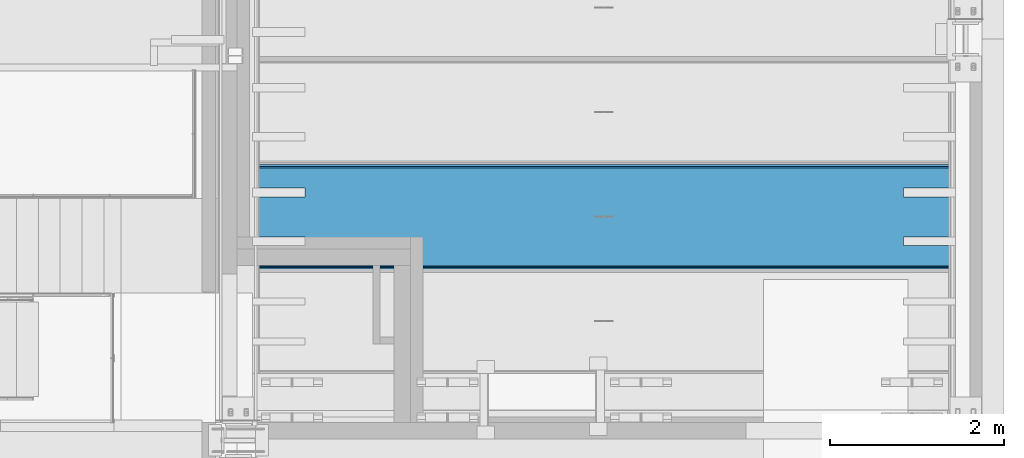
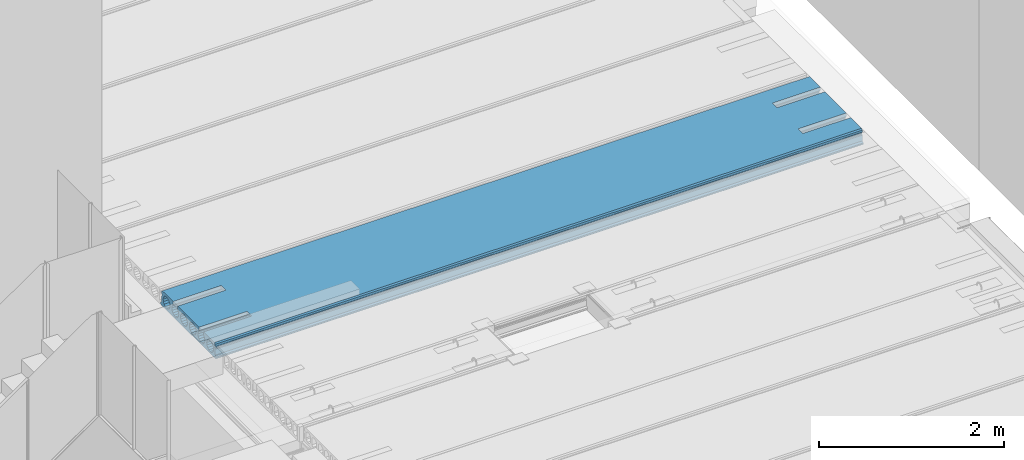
# One storey, part 101 of 230: 1 beam.
"""IFC4X3_ADD2 building model written with IfcOpenShell, lengths in millimetres."""

import ifcopenshell
import ifcopenshell.guid

model = None  # the IFC model being written
_history = None  # IfcOwnerHistory: only IFC2X3 demands one
_inside = {}  # id of a spatial element -> (the spatial element, [elements in it])
_under = {}  # id of a project, library or spatial element -> (it, [spatial elements below it])
_declared = {}  # id of a project -> (the project, [libraries it declares])
_typed = {}  # id of a type object -> (the type object, [elements of that type])
_made_of = {}  # id of a material, layer set ... -> (it, [elements and type objects made of it])


def new_model(schema):
    """Start an empty IFC model of exactly this schema.

    Asked for "IFC4X3", IfcOpenShell would pick the latest addendum, in which some entities
    have other attributes; the version numbers below select the first issue.
    IFC2X3 requires an IfcOwnerHistory on every rooted entity: one is made here for all.
    """
    global model, _history
    if schema == "IFC4X3":
        model = ifcopenshell.file(schema_version=(4, 3, 0, 0))
    else:
        model = ifcopenshell.file(schema=schema)
    _inside.clear()
    _under.clear()
    _declared.clear()
    _typed.clear()
    _made_of.clear()
    _history = None
    if model.schema == "IFC2X3":
        org = make("IfcOrganization", Name="unknown")
        user = make(
            "IfcPersonAndOrganization",
            ThePerson=make("IfcPerson", FamilyName="unknown"),
            TheOrganization=org,
        )
        app = make(
            "IfcApplication",
            ApplicationDeveloper=org,
            Version="unknown",
            ApplicationFullName="unknown",
            ApplicationIdentifier="unknown",
        )
        _history = make(
            "IfcOwnerHistory",
            OwningUser=user,
            OwningApplication=app,
            ChangeAction="ADDED",
            CreationDate=0,
        )
    return model


def make(cls, **values):
    """One entity of the class cls with the attributes given. An attribute that is None is left unset."""
    return model.create_entity(
        cls, **{name: value for name, value in values.items() if value is not None}
    )


def rooted(cls, **values):
    """An entity with a GlobalId (a new one), such as an element, a storey or a relation."""
    return make(cls, GlobalId=ifcopenshell.guid.new(), OwnerHistory=_history, **values)


def si_unit(unit_type, name, prefix=None):
    """IfcSIUnit, for example si_unit("LENGTHUNIT", "METRE", prefix="MILLI")."""
    return make("IfcSIUnit", UnitType=unit_type, Prefix=prefix, Name=name)


def assignment(units):
    """IfcUnitAssignment: the units of a project."""
    return None if units is None else make("IfcUnitAssignment", Units=units)


def point(xyz):
    """IfcCartesianPoint."""
    return None if xyz is None else make("IfcCartesianPoint", Coordinates=xyz)


def direction(xyz):
    """IfcDirection."""
    return None if xyz is None else make("IfcDirection", DirectionRatios=xyz)


def frame(location, z_axis=None, x_axis=None):
    """IfcAxis2Placement3D, a coordinate frame: its origin and axes. An axis left out is left unset."""
    return make(
        "IfcAxis2Placement3D",
        Location=point(location),
        Axis=direction(z_axis),
        RefDirection=direction(x_axis),
    )


def origin_with_axes():
    """The frame at (0, 0, 0) with the z axis (0, 0, 1) and the x axis (1, 0, 0) written out."""
    return frame((0.0, 0.0, 0.0), z_axis=(0.0, 0.0, 1.0), x_axis=(1.0, 0.0, 0.0))


def place(relative_to, where):
    """IfcLocalPlacement: puts the frame where relative to a parent placement (None: the world)."""
    return make(
        "IfcLocalPlacement", PlacementRelTo=relative_to, RelativePlacement=where
    )


def context(
    kind, dimensions, precision=None, world=None, true_north=None, identifier=None
):
    """IfcGeometricRepresentationContext, for example the 3D "Model" context."""
    return make(
        "IfcGeometricRepresentationContext",
        ContextIdentifier=identifier,
        ContextType=kind,
        CoordinateSpaceDimension=dimensions,
        Precision=precision,
        WorldCoordinateSystem=world,
        TrueNorth=true_north,
    )


def subcontext(parent, identifier, kind, view, scale=None):
    """IfcGeometricRepresentationSubContext, for example "Body" below "Model"."""
    return make(
        "IfcGeometricRepresentationSubContext",
        ContextIdentifier=identifier,
        ContextType=kind,
        ParentContext=parent,
        TargetScale=scale,
        TargetView=view,
    )


def project(units=None, contexts=None):
    """IfcProject with its units and contexts."""
    return rooted(
        "IfcProject",
        Name="project",
        RepresentationContexts=contexts,
        UnitsInContext=assignment(units),
    )


def spatial(cls, under=None, at=None, **own):
    """A site, building, storey or space (cls), placed at a placement, below another one or the project."""
    s = rooted(cls, ObjectPlacement=at, **own)
    if under is not None:
        _under.setdefault(under.id(), (under, []))[1].append(s)
    return s


def point_list(points):
    """IfcCartesianPointList2D or 3D."""
    cls = (
        "IfcCartesianPointList2D" if len(points[0]) == 2 else "IfcCartesianPointList3D"
    )
    return make(cls, CoordList=points)


def polygons(points, faces, closed=None, point_numbers=None):
    """IfcPolygonalFaceSet: a face is its outer loop, then its inner loops; points numbered from 1."""
    made = []
    for loops in faces:
        if len(loops) == 1:
            made.append(make("IfcIndexedPolygonalFace", CoordIndex=loops[0]))
        else:
            made.append(
                make(
                    "IfcIndexedPolygonalFaceWithVoids",
                    CoordIndex=loops[0],
                    InnerCoordIndices=loops[1:],
                )
            )
    return make(
        "IfcPolygonalFaceSet",
        Coordinates=point_list(points),
        Closed=closed,
        Faces=made,
        PnIndex=point_numbers,
    )


def shape(context_of_items, identifier, shape_type, items):
    """IfcShapeRepresentation: the items that make up one representation, for example the "Body"."""
    return make(
        "IfcShapeRepresentation",
        ContextOfItems=context_of_items,
        RepresentationIdentifier=identifier,
        RepresentationType=shape_type,
        Items=items,
    )


def made_of(thing, what):
    """Note that an element or type object is made of a material, layer set ...; save() writes the relation."""
    if what is not None:
        _made_of.setdefault(what.id(), (what, []))[1].append(thing)
    return thing


def element(
    cls,
    number,
    at=None,
    inside=None,
    cuts=None,
    type_object=None,
    material=None,
    context=None,
    identifier="Body",
    shape_type=None,
    held_by="IfcProductDefinitionShape",
    body=None,
    shapes=None,
    **own,
):
    """One element of the class cls, such as IfcWall. Its Tag is "e" and its number.

    at: its placement. inside: the storey or other place that contains it. cuts: it is an
    opening in that element (IfcRelVoidsElement). A single representation is given by context,
    identifier, shape_type and body (its items); several are given by shapes. held_by: the class
    of the entity that holds the representations. save() writes the other relations.
    """
    e = rooted(cls, Tag="e%d" % number, ObjectPlacement=at, **own)
    if body is not None:
        shapes = [shape(context, identifier, shape_type, body)]
    if shapes is not None:
        e.Representation = make(held_by, Representations=shapes)
    if inside is not None:
        _inside.setdefault(inside.id(), (inside, []))[1].append(e)
    if cuts is not None:
        rooted(
            "IfcRelVoidsElement", RelatingBuildingElement=cuts, RelatedOpeningElement=e
        )
    if type_object is not None:
        _typed.setdefault(type_object.id(), (type_object, []))[1].append(e)
    return made_of(e, material)


def aggregate(whole, parts):
    """IfcRelAggregates: a whole, such as a stair, and the parts it consists of."""
    return rooted("IfcRelAggregates", RelatingObject=whole, RelatedObjects=parts)


def save(model, path):
    """Write the relations noted so far, then the file.

    IfcRelAggregates (storeys below a building ...), IfcRelContainedInSpatialStructure (elements
    in a storey), IfcRelDefinesByType, IfcRelAssociatesMaterial and IfcRelDeclares: one each for
    every whole, place, type object, material and project.
    """
    for whole, parts in _under.values():
        aggregate(whole, parts)
    for where, things in _inside.values():
        rooted(
            "IfcRelContainedInSpatialStructure",
            RelatedElements=things,
            RelatingStructure=where,
        )
    for kind, things in _typed.values():
        rooted("IfcRelDefinesByType", RelatedObjects=things, RelatingType=kind)
    for what, things in _made_of.values():
        rooted("IfcRelAssociatesMaterial", RelatedObjects=things, RelatingMaterial=what)
    for by, libraries in _declared.values():
        rooted("IfcRelDeclares", RelatingContext=by, RelatedDefinitions=libraries)
    model.write(path)


model = new_model("IFC4X3_ADD2")

# Units and contexts
model_context = context("Model", 3, precision=1e-05, world=origin_with_axes(), true_north=direction((0.0, 1.0)))
body_context = subcontext(model_context, "Body", "Model", "MODEL_VIEW")
ifc_project = project(units=[si_unit("LENGTHUNIT", "METRE", prefix="MILLI"), si_unit("AREAUNIT", "SQUARE_METRE"), si_unit("VOLUMEUNIT", "CUBIC_METRE"), si_unit("PLANEANGLEUNIT", "RADIAN"), si_unit("TIMEUNIT", "SECOND"), si_unit("MASSUNIT", "GRAM")], contexts=[model_context])

# Site, building, storey
site_placement = place(None, origin_with_axes())
site = spatial("IfcSite", under=ifc_project, at=site_placement, Name="Site", CompositionType="ELEMENT")
building_placement = place(site_placement, origin_with_axes())
building = spatial("IfcBuilding", under=site, at=building_placement, Name="IFC Building Story")
storey_placement = place(building_placement, origin_with_axes())
storey = spatial("IfcBuildingStorey", under=building, at=storey_placement, Name="ETAGE 00 (0)", Elevation=0.0)

# Beam
beam_placement = place(storey_placement, origin_with_axes())
element("IfcBeam", 1, at=beam_placement, inside=storey, Name="HOLLOWCORE SLAB", ObjectType="EB_SP200", context=body_context, shape_type="Tessellation", body=[
    polygons([(40131.189, 3349.0, 3999.9999909), (40131.189, 2171.0, 3999.9999909), (40131.189, 2160.0, 4012.9999909), (40131.189, 2160.0, 4029.9999909), (40131.189, 2180.0, 4044.9999909), (40131.189, 2181.450012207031, 4119.9999909), (40131.189, 2188.982621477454, 4128.676139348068), (40131.189, 2191.839930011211, 4139.805000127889), (40131.189, 2189.418636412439, 4151.036789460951), (40131.189, 2182.22998046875, 4159.9999909), (40131.189, 2182.711296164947, 4185.002769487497), (40131.189, 2198.0, 4199.9999909), (40131.189, 2430.0, 4199.9999909), (40131.189, 2430.0, 4155.806158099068), (40131.189, 2425.320544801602, 4152.679446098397), (40131.189, 2409.170974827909, 4128.509906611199), (40131.189, 2403.5, 4099.9999909), (40131.189, 2409.170974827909, 4071.490075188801), (40131.189, 2425.320544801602, 4047.320535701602), (40131.189, 2449.490084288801, 4031.170965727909), (40131.189, 2478.0, 4025.4999909), (40131.189, 2506.509915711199, 4031.170965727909), (40131.189, 2530.679455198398, 4047.320535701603), (40131.189, 2546.829025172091, 4071.490075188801), (40131.189, 2552.5, 4099.9999909), (40131.189, 2546.829025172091, 4128.509906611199), (40131.189, 2530.679455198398, 4152.679446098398), (40131.189, 2530.0, 4153.13344354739), (40131.189, 2530.0, 4199.9999909), (40131.189, 2990.0, 4199.9999909), (40131.189, 2990.0, 4153.13344354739), (40131.189, 2989.320544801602, 4152.679446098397), (40131.189, 2973.170974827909, 4128.509906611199), (40131.189, 2967.5, 4099.9999909), (40131.189, 2973.170974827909, 4071.490075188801), (40131.189, 2989.320544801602, 4047.320535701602), (40131.189, 3013.490084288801, 4031.170965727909), (40131.189, 3042.0, 4025.4999909), (40131.189, 3070.509915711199, 4031.170965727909), (40131.189, 3094.679455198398, 4047.320535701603), (40131.189, 3110.829025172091, 4071.490075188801), (40131.189, 3116.5, 4099.9999909), (40131.189, 3110.829025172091, 4128.509906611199), (40131.189, 3094.679455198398, 4152.679446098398), (40131.189, 3090.0, 4155.806158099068), (40131.189, 3090.0, 4199.9999909), (40131.189, 3322.0, 4199.9999909), (40131.189, 3337.28870383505, 4185.002769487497), (40131.189, 3337.77001953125, 4159.9999909), (40131.189, 3330.58136358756, 4151.036789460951), (40131.189, 3328.16006998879, 4139.805000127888), (40131.189, 3331.01737852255, 4128.676139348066), (40131.189, 3338.549987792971, 4119.9999909), (40131.189, 3340.0, 4044.9999909), (40131.189, 3360.0, 4029.9999909), (40131.189, 3360.0, 4012.9999909), (40131.189, 3282.6794551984, 4152.679446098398), (40131.189, 3258.5099157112, 4168.829016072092), (40131.189, 3230.0, 4174.4999909), (40131.189, 3201.4900842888, 4168.829016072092), (40131.189, 3177.3205448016, 4152.679446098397), (40131.189, 3161.17097482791, 4128.509906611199), (40131.189, 3155.5, 4099.9999909), (40131.189, 3161.17097482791, 4071.490075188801), (40131.189, 3177.3205448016, 4047.320535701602), (40131.189, 3201.4900842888, 4031.170965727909), (40131.189, 3230.0, 4025.4999909), (40131.189, 3258.5099157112, 4031.170965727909), (40131.189, 3282.6794551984, 4047.320535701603), (40131.189, 3298.82902517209, 4071.490075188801), (40131.189, 3304.5, 4099.9999909), (40131.189, 3298.82902517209, 4128.509906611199), (40131.189, 2906.679455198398, 4152.679446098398), (40131.189, 2882.509915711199, 4168.829016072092), (40131.189, 2854.0, 4174.4999909), (40131.189, 2825.490084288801, 4168.829016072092), (40131.189, 2801.320544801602, 4152.679446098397), (40131.189, 2785.170974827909, 4128.509906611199), (40131.189, 2779.5, 4099.9999909), (40131.189, 2785.170974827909, 4071.490075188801), (40131.189, 2801.320544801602, 4047.320535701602), (40131.189, 2825.490084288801, 4031.170965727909), (40131.189, 2854.0, 4025.4999909), (40131.189, 2882.509915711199, 4031.170965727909), (40131.189, 2906.679455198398, 4047.320535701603), (40131.189, 2922.829025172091, 4071.490075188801), (40131.189, 2928.5, 4099.9999909), (40131.189, 2922.829025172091, 4128.509906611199), (40131.189, 2718.679455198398, 4152.679446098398), (40131.189, 2694.509915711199, 4168.829016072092), (40131.189, 2666.0, 4174.4999909), (40131.189, 2637.490084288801, 4168.829016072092), (40131.189, 2613.320544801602, 4152.679446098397), (40131.189, 2597.170974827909, 4128.509906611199), (40131.189, 2591.5, 4099.9999909), (40131.189, 2597.170974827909, 4071.490075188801), (40131.189, 2613.320544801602, 4047.320535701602), (40131.189, 2637.490084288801, 4031.170965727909), (40131.189, 2666.0, 4025.4999909), (40131.189, 2694.509915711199, 4031.170965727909), (40131.189, 2718.679455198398, 4047.320535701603), (40131.189, 2734.829025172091, 4071.490075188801), (40131.189, 2740.5, 4099.9999909), (40131.189, 2734.829025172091, 4128.509906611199), (40131.189, 2342.679455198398, 4152.679446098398), (40131.189, 2318.509915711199, 4168.829016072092), (40131.189, 2290.0, 4174.4999909), (40131.189, 2261.490084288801, 4168.829016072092), (40131.189, 2237.320544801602, 4152.679446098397), (40131.189, 2221.17097482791, 4128.509906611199), (40131.189, 2215.5, 4099.9999909), (40131.189, 2221.170974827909, 4071.490075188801), (40131.189, 2237.320544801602, 4047.320535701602), (40131.189, 2261.490084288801, 4031.170965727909), (40131.189, 2290.0, 4025.4999909), (40131.189, 2318.509915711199, 4031.170965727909), (40131.189, 2342.679455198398, 4047.320535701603), (40131.189, 2358.829025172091, 4071.490075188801), (40131.189, 2364.5, 4099.9999909), (40131.189, 2358.829025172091, 4128.509906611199), (48196.189, 3349.0, 3999.9999909), (48196.189, 3360.0, 4012.9999909), (48196.189, 3360.0, 4029.9999909), (48196.189, 3340.0, 4044.9999909), (48196.189, 3338.549987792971, 4119.9999909), (48196.189, 3331.01737852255, 4128.676139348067), (48196.189, 3328.16006998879, 4139.805000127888), (48196.189, 3330.58136358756, 4151.036789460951), (48196.189, 3337.77001953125, 4159.9999909), (48196.189, 3337.28870383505, 4185.002769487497), (48196.189, 3322.0, 4199.9999909), (48196.189, 3090.0, 4199.9999909), (48196.189, 3090.0, 4155.806158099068), (48196.189, 3094.679455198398, 4152.679446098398), (48196.189, 3110.829025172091, 4128.509906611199), (48196.189, 3116.5, 4099.9999909), (48196.189, 3110.829025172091, 4071.490075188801), (48196.189, 3094.679455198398, 4047.320535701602), (48196.189, 3070.509915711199, 4031.170965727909), (48196.189, 3042.0, 4025.4999909), (48196.189, 3013.490084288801, 4031.170965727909), (48196.189, 2989.320544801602, 4047.320535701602), (48196.189, 2973.170974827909, 4071.490075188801), (48196.189, 2967.5, 4099.9999909), (48196.189, 2973.170974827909, 4128.509906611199), (48196.189, 2989.320544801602, 4152.679446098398), (48196.189, 2990.0, 4153.13344354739), (48196.189, 2990.0, 4199.9999909), (48196.189, 2530.0, 4199.9999909), (48196.189, 2530.0, 4153.13344354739), (48196.189, 2530.679455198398, 4152.679446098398), (48196.189, 2546.829025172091, 4128.509906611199), (48196.189, 2552.5, 4099.9999909), (48196.189, 2546.829025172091, 4071.490075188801), (48196.189, 2530.679455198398, 4047.320535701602), (48196.189, 2506.509915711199, 4031.170965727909), (48196.189, 2478.0, 4025.4999909), (48196.189, 2449.490084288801, 4031.170965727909), (48196.189, 2425.320544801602, 4047.320535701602), (48196.189, 2409.170974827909, 4071.490075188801), (48196.189, 2403.5, 4099.9999909), (48196.189, 2409.170974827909, 4128.509906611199), (48196.189, 2425.320544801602, 4152.679446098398), (48196.189, 2430.0, 4155.806158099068), (48196.189, 2430.0, 4199.9999909), (48196.189, 2198.0, 4199.9999909), (48196.189, 2182.711296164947, 4185.002769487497), (48196.189, 2182.22998046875, 4159.9999909), (48196.189, 2189.418636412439, 4151.036789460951), (48196.189, 2191.839930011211, 4139.805000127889), (48196.189, 2188.982621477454, 4128.676139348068), (48196.189, 2181.450012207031, 4119.9999909), (48196.189, 2180.0, 4044.9999909), (48196.189, 2160.0, 4029.9999909), (48196.189, 2160.0, 4012.9999909), (48196.189, 2171.0, 3999.9999909), (48196.189, 3282.6794551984, 4152.679446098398), (48196.189, 3298.82902517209, 4128.509906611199), (48196.189, 3304.5, 4099.9999909), (48196.189, 3298.82902517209, 4071.490075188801), (48196.189, 3282.6794551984, 4047.320535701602), (48196.189, 3258.5099157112, 4031.170965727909), (48196.189, 3230.0, 4025.4999909), (48196.189, 3201.4900842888, 4031.170965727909), (48196.189, 3177.3205448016, 4047.320535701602), (48196.189, 3161.17097482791, 4071.490075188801), (48196.189, 3155.5, 4099.9999909), (48196.189, 3161.17097482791, 4128.509906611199), (48196.189, 3177.3205448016, 4152.679446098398), (48196.189, 3201.4900842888, 4168.829016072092), (48196.189, 3230.0, 4174.4999909), (48196.189, 3258.5099157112, 4168.829016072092), (48196.189, 2906.679455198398, 4152.679446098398), (48196.189, 2922.829025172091, 4128.509906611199), (48196.189, 2928.5, 4099.9999909), (48196.189, 2922.829025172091, 4071.490075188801), (48196.189, 2906.679455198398, 4047.320535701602), (48196.189, 2882.509915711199, 4031.170965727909), (48196.189, 2854.0, 4025.4999909), (48196.189, 2825.490084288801, 4031.170965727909), (48196.189, 2801.320544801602, 4047.320535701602), (48196.189, 2785.170974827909, 4071.490075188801), (48196.189, 2779.5, 4099.9999909), (48196.189, 2785.170974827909, 4128.509906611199), (48196.189, 2801.320544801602, 4152.679446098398), (48196.189, 2825.490084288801, 4168.829016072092), (48196.189, 2854.0, 4174.4999909), (48196.189, 2882.509915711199, 4168.829016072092), (48196.189, 2718.679455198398, 4152.679446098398), (48196.189, 2734.829025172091, 4128.509906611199), (48196.189, 2740.5, 4099.9999909), (48196.189, 2734.829025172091, 4071.490075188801), (48196.189, 2718.679455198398, 4047.320535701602), (48196.189, 2694.509915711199, 4031.170965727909), (48196.189, 2666.0, 4025.4999909), (48196.189, 2637.490084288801, 4031.170965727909), (48196.189, 2613.320544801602, 4047.320535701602), (48196.189, 2597.170974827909, 4071.490075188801), (48196.189, 2591.5, 4099.9999909), (48196.189, 2597.170974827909, 4128.509906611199), (48196.189, 2613.320544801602, 4152.679446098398), (48196.189, 2637.490084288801, 4168.829016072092), (48196.189, 2666.0, 4174.4999909), (48196.189, 2694.509915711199, 4168.829016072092), (48196.189, 2342.679455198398, 4152.679446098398), (48196.189, 2358.829025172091, 4128.509906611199), (48196.189, 2364.5, 4099.9999909), (48196.189, 2358.829025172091, 4071.490075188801), (48196.189, 2342.679455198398, 4047.320535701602), (48196.189, 2318.509915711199, 4031.170965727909), (48196.189, 2290.0, 4025.4999909), (48196.189, 2261.490084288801, 4031.170965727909), (48196.189, 2237.320544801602, 4047.320535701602), (48196.189, 2221.17097482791, 4071.490075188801), (48196.189, 2215.5, 4099.9999909), (48196.189, 2221.17097482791, 4128.509906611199), (48196.189, 2237.320544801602, 4152.679446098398), (48196.189, 2261.490084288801, 4168.829016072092), (48196.189, 2290.0, 4174.4999909), (48196.189, 2318.509915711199, 4168.829016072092), (40731.189, 3090.0, 4199.9999909), (40731.189, 2990.0, 4199.9999909), (40731.189, 2530.0, 4199.9999909), (40731.189, 2430.0, 4199.9999909), (47596.18900000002, 2430.0, 4199.9999909), (47596.18900000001, 2530.0, 4199.9999909), (47596.18900000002, 2990.0, 4199.9999909), (47596.18900000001, 3090.0, 4199.9999909), (47596.18900000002, 3090.0, 4155.806158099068), (47596.18900000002, 3070.509915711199, 4168.829016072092), (40731.189, 3070.509915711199, 4168.829016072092), (40731.189, 3090.0, 4155.806158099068), (47596.18900000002, 3042.0, 4174.4999909), (40731.189, 3042.0, 4174.4999909), (47596.18900000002, 3013.490084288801, 4168.829016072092), (40731.189, 3013.490084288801, 4168.829016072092), (40731.189, 2990.0, 4153.13344354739), (47596.18900000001, 2990.0, 4153.13344354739), (47596.18900000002, 2530.0, 4153.13344354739), (47596.18900000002, 2506.509915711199, 4168.829016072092), (40731.189, 2506.5099157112, 4168.829016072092), (40731.189, 2530.0, 4153.13344354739), (47596.18900000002, 2478.0, 4174.4999909), (40731.189, 2478.0, 4174.4999909), (47596.18900000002, 2449.490084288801, 4168.829016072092), (40731.189, 2449.490084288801, 4168.829016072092), (40731.189, 2430.0, 4155.806158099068), (47596.18900000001, 2430.0, 4155.806158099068), (40731.189, 2990.0, 4199.999996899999), (40731.189, 3090.0, 4199.999996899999), (47596.18900000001, 3090.0, 4199.999996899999), (47596.18900000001, 2990.0, 4199.999996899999), (47596.18900000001, 2530.0, 4199.999996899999), (47596.18900000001, 2430.0, 4199.999996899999), (40731.189, 2430.0, 4199.999996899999), (40731.189, 2530.0, 4199.999996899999)], [[[27, 28, 29]], [[92, 93, 26]], [[92, 26, 27]], [[92, 27, 29]], [[29, 91, 92]], [[91, 29, 30]], [[30, 90, 91]], [[30, 89, 90]], [[94, 95, 25]], [[94, 25, 26]], [[26, 93, 94]], [[96, 97, 24]], [[24, 25, 95]], [[24, 95, 96]], [[97, 23, 24]], [[76, 77, 104]], [[76, 104, 89]], [[89, 75, 76]], [[75, 89, 30]], [[30, 74, 75]], [[30, 73, 74]], [[78, 79, 103]], [[78, 103, 104]], [[104, 77, 78]], [[80, 81, 102]], [[102, 103, 79]], [[102, 79, 80]], [[81, 101, 102]], [[88, 73, 30]], [[88, 30, 31]], [[33, 34, 87]], [[33, 87, 88]], [[88, 32, 33]], [[88, 31, 32]], [[35, 36, 86]], [[86, 87, 34]], [[86, 34, 35]], [[36, 85, 86]], [[44, 45, 46]], [[60, 61, 43]], [[60, 43, 44]], [[60, 44, 46]], [[46, 59, 60]], [[46, 47, 59]], [[47, 58, 59]], [[47, 57, 58]], [[62, 63, 42]], [[62, 42, 43]], [[43, 61, 62]], [[64, 65, 41]], [[41, 42, 63]], [[41, 63, 64]], [[50, 51, 72]], [[50, 72, 57]], [[57, 47, 48]], [[57, 48, 49]], [[57, 49, 50]], [[52, 53, 71]], [[52, 71, 72]], [[72, 51, 52]], [[53, 54, 70]], [[53, 70, 71]], [[54, 55, 56]], [[54, 56, 1]], [[1, 69, 70]], [[1, 70, 54]], [[1, 68, 69]], [[1, 67, 68]], [[1, 66, 67]], [[1, 40, 66]], [[40, 41, 65]], [[40, 65, 66]], [[1, 39, 40]], [[1, 38, 39]], [[1, 84, 38]], [[84, 37, 38]], [[84, 85, 36]], [[84, 36, 37]], [[1, 83, 84]], [[1, 100, 83]], [[100, 82, 83]], [[100, 101, 81]], [[100, 81, 82]], [[1, 99, 100]], [[1, 22, 99]], [[22, 98, 99]], [[22, 23, 97]], [[22, 97, 98]], [[1, 21, 22]], [[1, 2, 21]], [[2, 20, 21]], [[2, 19, 20]], [[9, 10, 11]], [[9, 11, 12]], [[109, 110, 8]], [[109, 8, 9]], [[9, 12, 108]], [[9, 108, 109]], [[12, 107, 108]], [[107, 12, 13]], [[13, 106, 107]], [[13, 105, 106]], [[110, 7, 8]], [[112, 113, 5]], [[5, 6, 111]], [[5, 111, 112]], [[6, 7, 110]], [[6, 110, 111]], [[116, 117, 18]], [[116, 18, 19]], [[19, 115, 116]], [[19, 2, 115]], [[2, 114, 115]], [[2, 5, 113]], [[2, 113, 114]], [[2, 3, 4]], [[2, 4, 5]], [[118, 119, 17]], [[118, 17, 18]], [[18, 117, 118]], [[120, 105, 16]], [[16, 17, 119]], [[16, 119, 120]], [[105, 13, 15]], [[105, 15, 16]], [[13, 14, 15]], [[173, 174, 175]], [[173, 175, 176]], [[128, 129, 130]], [[128, 130, 131]], [[128, 131, 177]], [[177, 178, 127]], [[177, 127, 128]], [[178, 126, 127]], [[180, 181, 124]], [[124, 125, 179]], [[124, 179, 180]], [[125, 126, 178]], [[125, 178, 179]], [[192, 177, 131]], [[131, 191, 192]], [[191, 131, 132]], [[132, 190, 191]], [[132, 189, 190]], [[132, 133, 188]], [[132, 188, 189]], [[135, 136, 187]], [[135, 187, 188]], [[188, 134, 135]], [[188, 133, 134]], [[137, 138, 186]], [[186, 187, 136]], [[186, 136, 137]], [[138, 139, 185]], [[138, 185, 186]], [[139, 184, 185]], [[146, 147, 148]], [[148, 193, 145]], [[148, 145, 146]], [[194, 195, 144]], [[194, 144, 145]], [[145, 193, 194]], [[196, 197, 143]], [[143, 144, 195]], [[143, 195, 196]], [[197, 142, 143]], [[208, 193, 148]], [[148, 207, 208]], [[148, 209, 207]], [[209, 206, 207]], [[209, 205, 206]], [[209, 204, 205]], [[210, 211, 203]], [[210, 203, 204]], [[204, 209, 210]], [[212, 213, 202]], [[202, 203, 211]], [[202, 211, 212]], [[213, 201, 202]], [[224, 209, 148]], [[148, 223, 224]], [[148, 149, 223]], [[149, 222, 223]], [[149, 221, 222]], [[149, 150, 220]], [[149, 220, 221]], [[152, 153, 219]], [[152, 219, 220]], [[220, 151, 152]], [[220, 150, 151]], [[154, 155, 218]], [[218, 219, 153]], [[218, 153, 154]], [[155, 217, 218]], [[163, 164, 165]], [[165, 225, 162]], [[165, 162, 163]], [[226, 227, 161]], [[226, 161, 162]], [[162, 225, 226]], [[228, 229, 160]], [[160, 161, 227]], [[160, 227, 228]], [[235, 236, 171]], [[235, 171, 172]], [[172, 173, 234]], [[172, 234, 235]], [[173, 176, 233]], [[173, 233, 234]], [[176, 232, 233]], [[176, 231, 232]], [[176, 230, 231]], [[176, 159, 230]], [[159, 160, 229]], [[159, 229, 230]], [[176, 158, 159]], [[176, 157, 158]], [[176, 216, 157]], [[216, 156, 157]], [[216, 217, 155]], [[216, 155, 156]], [[176, 215, 216]], [[176, 200, 215]], [[200, 214, 215]], [[200, 201, 213]], [[200, 213, 214]], [[176, 199, 200]], [[176, 141, 199]], [[141, 198, 199]], [[141, 142, 197]], [[141, 197, 198]], [[176, 140, 141]], [[176, 183, 140]], [[183, 184, 139]], [[183, 139, 140]], [[176, 121, 183]], [[121, 182, 183]], [[121, 124, 181]], [[121, 181, 182]], [[121, 122, 123]], [[121, 123, 124]], [[236, 170, 171]], [[240, 225, 165]], [[165, 239, 240]], [[165, 166, 239]], [[166, 238, 239]], [[166, 169, 237]], [[166, 237, 238]], [[169, 170, 236]], [[169, 236, 237]], [[166, 167, 168]], [[166, 168, 169]], [[2, 1, 121, 176]], [[3, 2, 176, 175]], [[4, 3, 175, 174]], [[5, 4, 174, 173]], [[6, 5, 173, 172]], [[7, 6, 172, 171]], [[8, 7, 171, 170]], [[9, 8, 170, 169]], [[10, 9, 169, 168]], [[11, 10, 168, 167]], [[12, 11, 167, 166]], [[242, 30, 29]], [[242, 29, 243]], [[244, 13, 12]], [[244, 12, 166]], [[166, 243, 244]], [[242, 243, 166]], [[166, 241, 242]], [[246, 149, 148]], [[246, 148, 247]], [[248, 132, 131]], [[248, 131, 47]], [[47, 247, 248]], [[246, 247, 47]], [[47, 245, 246]], [[47, 241, 166]], [[47, 166, 245]], [[166, 165, 245]], [[47, 46, 241]], [[48, 47, 131, 130]], [[49, 48, 130, 129]], [[50, 49, 129, 128]], [[51, 50, 128, 127]], [[52, 51, 127, 126]], [[53, 52, 126, 125]], [[54, 53, 125, 124]], [[55, 54, 124, 123]], [[56, 55, 123, 122]], [[1, 56, 122, 121]], [[58, 57, 177, 192]], [[59, 58, 192, 191]], [[60, 59, 191, 190]], [[61, 60, 190, 189]], [[62, 61, 189, 188]], [[63, 62, 188, 187]], [[64, 63, 187, 186]], [[65, 64, 186, 185]], [[66, 65, 185, 184]], [[67, 66, 184, 183]], [[68, 67, 183, 182]], [[69, 68, 182, 181]], [[70, 69, 181, 180]], [[71, 70, 180, 179]], [[72, 71, 179, 178]], [[57, 72, 178, 177]], [[252, 45, 44]], [[252, 44, 249]], [[249, 250, 251]], [[249, 251, 252]], [[44, 134, 249]], [[134, 133, 249]], [[251, 250, 253, 254]], [[254, 253, 255, 256]], [[258, 147, 146]], [[258, 146, 257]], [[257, 256, 255]], [[257, 255, 258]], [[146, 32, 257]], [[32, 31, 257]], [[33, 32, 146, 145]], [[34, 33, 145, 144]], [[35, 34, 144, 143]], [[36, 35, 143, 142]], [[37, 36, 142, 141]], [[38, 37, 141, 140]], [[39, 38, 140, 139]], [[40, 39, 139, 138]], [[41, 40, 138, 137]], [[42, 41, 137, 136]], [[43, 42, 136, 135]], [[44, 43, 135, 134]], [[74, 73, 193, 208]], [[75, 74, 208, 207]], [[76, 75, 207, 206]], [[77, 76, 206, 205]], [[78, 77, 205, 204]], [[79, 78, 204, 203]], [[80, 79, 203, 202]], [[81, 80, 202, 201]], [[82, 81, 201, 200]], [[83, 82, 200, 199]], [[84, 83, 199, 198]], [[85, 84, 198, 197]], [[86, 85, 197, 196]], [[87, 86, 196, 195]], [[88, 87, 195, 194]], [[73, 88, 194, 193]], [[90, 89, 209, 224]], [[91, 90, 224, 223]], [[92, 91, 223, 222]], [[93, 92, 222, 221]], [[94, 93, 221, 220]], [[95, 94, 220, 219]], [[96, 95, 219, 218]], [[97, 96, 218, 217]], [[98, 97, 217, 216]], [[99, 98, 216, 215]], [[100, 99, 215, 214]], [[101, 100, 214, 213]], [[102, 101, 213, 212]], [[103, 102, 212, 211]], [[104, 103, 211, 210]], [[89, 104, 210, 209]], [[262, 28, 27]], [[262, 27, 259]], [[259, 260, 261]], [[259, 261, 262]], [[27, 151, 259]], [[151, 150, 259]], [[260, 263, 264, 261]], [[263, 265, 266, 264]], [[268, 164, 163]], [[268, 163, 267]], [[267, 266, 265]], [[267, 265, 268]], [[163, 15, 267]], [[15, 14, 267]], [[16, 15, 163, 162]], [[17, 16, 162, 161]], [[18, 17, 161, 160]], [[19, 18, 160, 159]], [[20, 19, 159, 158]], [[21, 20, 158, 157]], [[22, 21, 157, 156]], [[23, 22, 156, 155]], [[24, 23, 155, 154]], [[25, 24, 154, 153]], [[26, 25, 153, 152]], [[27, 26, 152, 151]], [[106, 105, 225, 240]], [[107, 106, 240, 239]], [[108, 107, 239, 238]], [[109, 108, 238, 237]], [[110, 109, 237, 236]], [[111, 110, 236, 235]], [[112, 111, 235, 234]], [[113, 112, 234, 233]], [[114, 113, 233, 232]], [[115, 114, 232, 231]], [[116, 115, 231, 230]], [[117, 116, 230, 229]], [[118, 117, 229, 228]], [[119, 118, 228, 227]], [[120, 119, 227, 226]], [[105, 120, 226, 225]], [[46, 45, 252, 241]], [[31, 30, 269, 257]], [[256, 257, 242]], [[242, 270, 254]], [[242, 254, 256]], [[270, 251, 254]], [[270, 252, 251]], [[148, 147, 258, 247]], [[133, 132, 271, 249]], [[250, 249, 248]], [[248, 253, 250]], [[248, 272, 255]], [[248, 255, 253]], [[272, 258, 255]], [[165, 164, 268, 245]], [[150, 149, 273, 259]], [[260, 259, 246]], [[246, 274, 263]], [[246, 263, 260]], [[274, 265, 263]], [[274, 268, 265]], [[262, 243, 29, 28]], [[275, 267, 14, 13]], [[266, 267, 244]], [[244, 264, 266]], [[244, 276, 261]], [[244, 261, 264]], [[276, 262, 261]]]),
])

save(model, "model.ifc")
